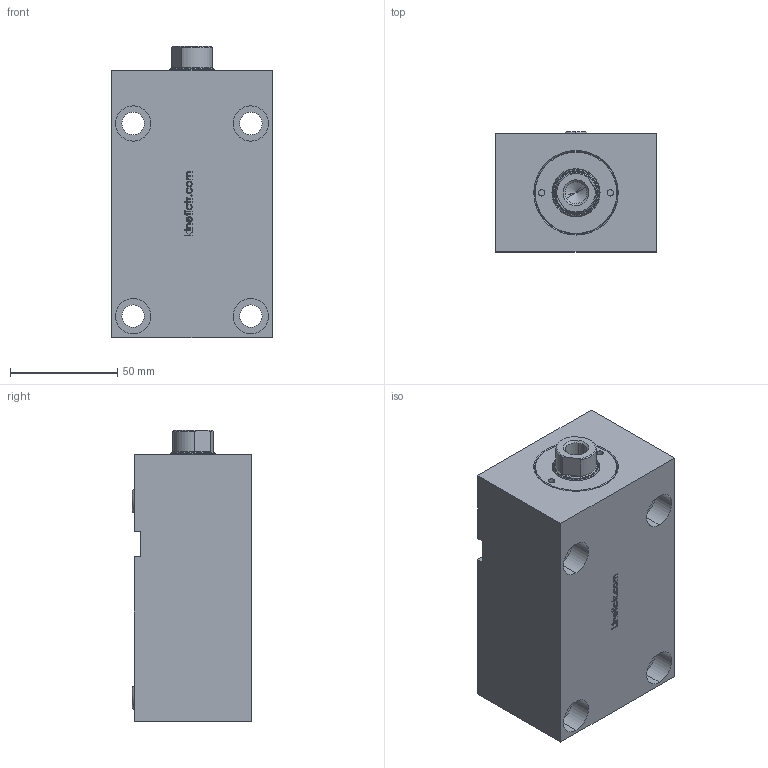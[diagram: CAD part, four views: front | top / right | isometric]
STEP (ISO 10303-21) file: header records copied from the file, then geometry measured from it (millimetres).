
FILE_DESCRIPTION (( 'STEP AP214' ), '1' );
FILE_NAME ('KBZ_11_32_20_75.STEP', '2019-09-15T15:08:13', ( '' ), ( '' ), 'SwSTEP 2.0', 'SolidWorks 2018', '' );
FILE_SCHEMA (( 'AUTOMOTIVE_DESIGN' ));
Length unit declared in the file: millimetre
Products named in the file (6): kbz_11_32_20_govde_W; K06-20X25X4_3X6; KBZ_11_20_MIL_W; KO-6X2_5; KBZ_11_32_ON_kapak_W; KBZ_11_32_20_75
Assembly tree (6 placements, depth 2):
  KBZ_11_32_20_75
    kbz_11_32_20_govde_W
    KBZ_11_20_MIL_W
    KBZ_11_32_ON_kapak_W
    K06-20X25X4_3X6
    KO-6X2_5  x2
Bounding box: 75 x 56 x 136 mm (x, y, z)
Volume: 481954.8 mm3; surface area: 63615.8 mm2
Topology: 6 solids, 6 shells, 325 faces, 785 edges, 504 vertices
Faces by surface type: plane 137, bspline 77, cylinder 62, cone 49
Entity records: 12988 total; most frequent: CARTESIAN_POINT 5553, ORIENTED_EDGE 1550, DIRECTION 1308, EDGE_CURVE 775, VERTEX_POINT 500, VECTOR 438, LINE 438, AXIS2_PLACEMENT_3D 435
